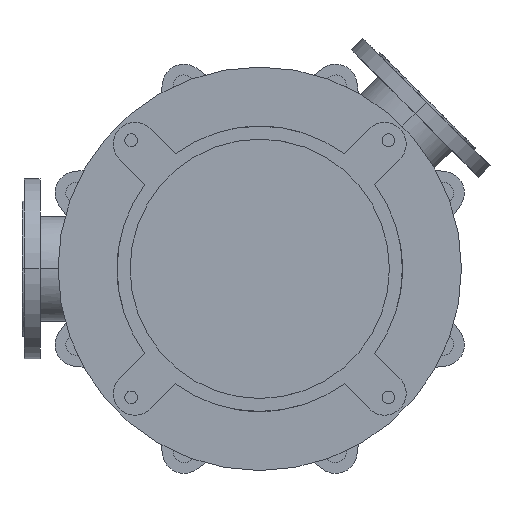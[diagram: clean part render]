
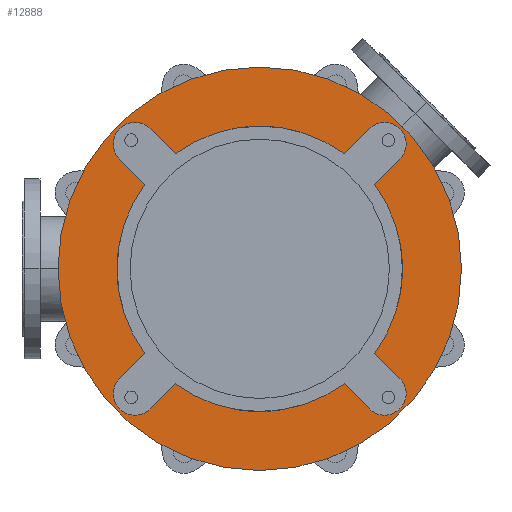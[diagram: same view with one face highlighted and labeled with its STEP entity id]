
A CAD part, front view. The second image highlights one B-rep face of the part: STEP entity #12888.
In plain terms, the highlighted planar face has unit normal (0, -1, 0).
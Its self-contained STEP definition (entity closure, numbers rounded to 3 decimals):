
#2534=CARTESIAN_POINT('',(0.,-25.,0.));
#2535=DIRECTION('',(0.,1.,0.));
#2536=DIRECTION('',(0.592,0.,-0.806));
#2537=AXIS2_PLACEMENT_3D('',#2534,#2535,#2536);
#2552=CARTESIAN_POINT('',(0.,-25.,0.));
#2553=DIRECTION('',(0.,1.,0.));
#2554=DIRECTION('',(0.806,0.,0.592));
#2555=AXIS2_PLACEMENT_3D('',#2552,#2553,#2554);
#2579=CARTESIAN_POINT('',(0.,-25.,0.));
#2580=DIRECTION('',(0.,1.,0.));
#2581=DIRECTION('',(-0.806,0.,-0.592));
#2582=AXIS2_PLACEMENT_3D('',#2579,#2580,#2581);
#2588=CARTESIAN_POINT('',(0.,-25.,0.));
#2589=DIRECTION('',(0.,1.,0.));
#2590=DIRECTION('',(-0.592,0.,0.806));
#2591=AXIS2_PLACEMENT_3D('',#2588,#2589,#2590);
#2766=CARTESIAN_POINT('',(0.,-25.,0.));
#2767=DIRECTION('',(0.,-1.,0.));
#2768=DIRECTION('',(-1.,0.,0.));
#2769=AXIS2_PLACEMENT_3D('',#2766,#2767,#2768);
#2771=CARTESIAN_POINT('',(0.,-25.,0.));
#2772=DIRECTION('',(0.,1.,0.));
#2773=DIRECTION('',(-1.,0.,0.));
#2774=AXIS2_PLACEMENT_3D('',#2771,#2772,#2773);
#2776=CARTESIAN_POINT('',(-173.241,-25.,173.241));
#2777=DIRECTION('',(0.,-1.,0.));
#2778=DIRECTION('',(0.707,0.,0.707));
#2779=AXIS2_PLACEMENT_3D('',#2776,#2777,#2778);
#2781=DIRECTION('',(0.707,0.,-0.707));
#2782=VECTOR('',#2781,49.286);
#2783=CARTESIAN_POINT('',(-194.454,-25.,152.028));
#2784=LINE('',#2783,#2782);
#2785=DIRECTION('',(-0.707,0.,-0.707));
#2786=VECTOR('',#2785,49.286);
#2787=CARTESIAN_POINT('',(-159.604,-25.,-117.178));
#2788=LINE('',#2787,#2786);
#2789=CARTESIAN_POINT('',(-173.241,-25.,-173.241));
#2790=DIRECTION('',(0.,-1.,0.));
#2791=DIRECTION('',(-0.707,0.,0.707));
#2792=AXIS2_PLACEMENT_3D('',#2789,#2790,#2791);
#2794=DIRECTION('',(0.707,0.,0.707));
#2795=VECTOR('',#2794,49.286);
#2796=CARTESIAN_POINT('',(-152.028,-25.,-194.454));
#2797=LINE('',#2796,#2795);
#2798=DIRECTION('',(0.707,0.,-0.707));
#2799=VECTOR('',#2798,49.286);
#2800=CARTESIAN_POINT('',(117.178,-25.,-159.604));
#2801=LINE('',#2800,#2799);
#2802=CARTESIAN_POINT('',(173.241,-25.,-173.241));
#2803=DIRECTION('',(0.,-1.,0.));
#2804=DIRECTION('',(-0.707,0.,-0.707));
#2805=AXIS2_PLACEMENT_3D('',#2802,#2803,#2804);
#2807=DIRECTION('',(-0.707,0.,0.707));
#2808=VECTOR('',#2807,49.286);
#2809=CARTESIAN_POINT('',(194.454,-25.,-152.028));
#2810=LINE('',#2809,#2808);
#2811=DIRECTION('',(0.707,0.,0.707));
#2812=VECTOR('',#2811,49.286);
#2813=CARTESIAN_POINT('',(159.604,-25.,117.178));
#2814=LINE('',#2813,#2812);
#2815=CARTESIAN_POINT('',(173.241,-25.,173.241));
#2816=DIRECTION('',(0.,-1.,0.));
#2817=DIRECTION('',(0.707,0.,-0.707));
#2818=AXIS2_PLACEMENT_3D('',#2815,#2816,#2817);
#2820=DIRECTION('',(-0.707,0.,-0.707));
#2821=VECTOR('',#2820,49.286);
#2822=CARTESIAN_POINT('',(152.028,-25.,194.454));
#2823=LINE('',#2822,#2821);
#2824=DIRECTION('',(-0.707,0.,0.707));
#2825=VECTOR('',#2824,49.286);
#2826=CARTESIAN_POINT('',(-117.178,-25.,159.604));
#2827=LINE('',#2826,#2825);
#8401=CARTESIAN_POINT('',(-280.,-25.,0.));
#8402=CARTESIAN_POINT('',(280.,-25.,0.));
#8403=VERTEX_POINT('',#8401);
#8404=VERTEX_POINT('',#8402);
#8425=CARTESIAN_POINT('',(-194.454,-25.,-152.028));
#8426=CARTESIAN_POINT('',(-152.028,-25.,-194.454));
#8427=VERTEX_POINT('',#8425);
#8428=VERTEX_POINT('',#8426);
#8429=CARTESIAN_POINT('',(-117.178,-25.,-159.604));
#8430=VERTEX_POINT('',#8429);
#8431=CARTESIAN_POINT('',(-159.604,-25.,-117.178));
#8432=VERTEX_POINT('',#8431);
#8441=CARTESIAN_POINT('',(152.028,-25.,-194.454));
#8442=CARTESIAN_POINT('',(194.454,-25.,-152.028));
#8443=VERTEX_POINT('',#8441);
#8444=VERTEX_POINT('',#8442);
#8445=CARTESIAN_POINT('',(159.604,-25.,-117.178));
#8446=VERTEX_POINT('',#8445);
#8447=CARTESIAN_POINT('',(117.178,-25.,-159.604));
#8448=VERTEX_POINT('',#8447);
#8457=CARTESIAN_POINT('',(194.454,-25.,152.028));
#8458=CARTESIAN_POINT('',(152.028,-25.,194.454));
#8459=VERTEX_POINT('',#8457);
#8460=VERTEX_POINT('',#8458);
#8461=CARTESIAN_POINT('',(117.178,-25.,159.604));
#8462=VERTEX_POINT('',#8461);
#8463=CARTESIAN_POINT('',(159.604,-25.,117.178));
#8464=VERTEX_POINT('',#8463);
#8473=CARTESIAN_POINT('',(-152.028,-25.,194.454));
#8474=CARTESIAN_POINT('',(-194.454,-25.,152.028));
#8475=VERTEX_POINT('',#8473);
#8476=VERTEX_POINT('',#8474);
#8477=CARTESIAN_POINT('',(-159.604,-25.,117.178));
#8478=VERTEX_POINT('',#8477);
#8479=CARTESIAN_POINT('',(-117.178,-25.,159.604));
#8480=VERTEX_POINT('',#8479);
#12848=CARTESIAN_POINT('',(0.,-25.,0.));
#12849=DIRECTION('',(0.,-1.,0.));
#12850=DIRECTION('',(-1.,0.,0.));
#12851=AXIS2_PLACEMENT_3D('',#12848,#12849,#12850);
#12852=PLANE('',#12851);
#12854=ORIENTED_EDGE('',*,*,#12853,.F.);
#12856=ORIENTED_EDGE('',*,*,#12855,.T.);
#12857=EDGE_LOOP('',(#12854,#12856));
#12858=FACE_OUTER_BOUND('',#12857,.F.);
#12860=ORIENTED_EDGE('',*,*,#12859,.T.);
#12862=ORIENTED_EDGE('',*,*,#12861,.T.);
#12863=ORIENTED_EDGE('',*,*,#12801,.F.);
#12865=ORIENTED_EDGE('',*,*,#12864,.T.);
#12867=ORIENTED_EDGE('',*,*,#12866,.T.);
#12869=ORIENTED_EDGE('',*,*,#12868,.T.);
#12870=ORIENTED_EDGE('',*,*,#12754,.F.);
#12871=ORIENTED_EDGE('',*,*,#12838,.T.);
#12873=ORIENTED_EDGE('',*,*,#12872,.T.);
#12875=ORIENTED_EDGE('',*,*,#12874,.T.);
#12876=ORIENTED_EDGE('',*,*,#12775,.F.);
#12878=ORIENTED_EDGE('',*,*,#12877,.T.);
#12880=ORIENTED_EDGE('',*,*,#12879,.T.);
#12882=ORIENTED_EDGE('',*,*,#12881,.T.);
#12883=ORIENTED_EDGE('',*,*,#12819,.F.);
#12885=ORIENTED_EDGE('',*,*,#12884,.T.);
#12886=EDGE_LOOP('',(#12860,#12862,#12863,#12865,#12867,#12869,#12870,#12871,
#12873,#12875,#12876,#12878,#12880,#12882,#12883,#12885));
#12887=FACE_BOUND('',#12886,.F.);
#12888=ADVANCED_FACE('',(#12858,#12887),#12852,.T.);
#2538=CIRCLE('',#2537,198.);
#2556=CIRCLE('',#2555,198.);
#2583=CIRCLE('',#2582,198.);
#2592=CIRCLE('',#2591,198.);
#2770=CIRCLE('',#2769,280.);
#2775=CIRCLE('',#2774,280.);
#2780=CIRCLE('',#2779,30.);
#2793=CIRCLE('',#2792,30.);
#2806=CIRCLE('',#2805,30.);
#2819=CIRCLE('',#2818,30.);
#12754=EDGE_CURVE('',#8448,#8430,#2538,.T.);
#12775=EDGE_CURVE('',#8464,#8446,#2556,.T.);
#12801=EDGE_CURVE('',#8432,#8478,#2583,.T.);
#12819=EDGE_CURVE('',#8480,#8462,#2592,.T.);
#12838=EDGE_CURVE('',#8448,#8443,#2801,.T.);
#12853=EDGE_CURVE('',#8403,#8404,#2770,.T.);
#12855=EDGE_CURVE('',#8403,#8404,#2775,.T.);
#12859=EDGE_CURVE('',#8475,#8476,#2780,.T.);
#12861=EDGE_CURVE('',#8476,#8478,#2784,.T.);
#12864=EDGE_CURVE('',#8432,#8427,#2788,.T.);
#12866=EDGE_CURVE('',#8427,#8428,#2793,.T.);
#12868=EDGE_CURVE('',#8428,#8430,#2797,.T.);
#12872=EDGE_CURVE('',#8443,#8444,#2806,.T.);
#12874=EDGE_CURVE('',#8444,#8446,#2810,.T.);
#12877=EDGE_CURVE('',#8464,#8459,#2814,.T.);
#12879=EDGE_CURVE('',#8459,#8460,#2819,.T.);
#12881=EDGE_CURVE('',#8460,#8462,#2823,.T.);
#12884=EDGE_CURVE('',#8480,#8475,#2827,.T.);
